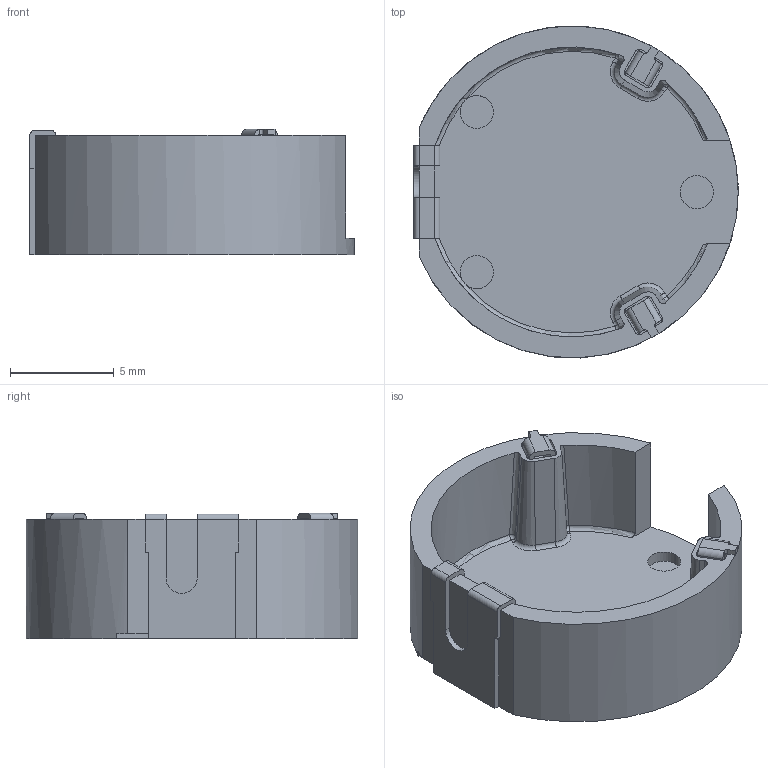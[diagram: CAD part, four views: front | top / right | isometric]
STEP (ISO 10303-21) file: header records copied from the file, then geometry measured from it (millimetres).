
FILE_DESCRIPTION((''),'2;1');
FILE_NAME('C-1513634-1','2011-04-26T',('workeradm'),('Tyco Electronics Ltd.'),'PRO/ENGINEER BY PARAMETRIC TECHNOLOGY CORPORATION, 2009300','PRO/ENGINEER BY PARAMETRIC TECHNOLOGY CORPORATION, 2009300','');
FILE_SCHEMA(('AUTOMOTIVE_DESIGN { 1 0 10303 214 1 1 1 1 }'));
Length unit declared in the file: millimetre
Products named in the file (1): C-1513634-1
Bounding box: 15.63 x 15.99 x 6.05 mm (x, y, z)
Volume: 387.4 mm3; surface area: 919.2 mm2
Topology: 1 solids, 1 shells, 129 faces, 352 edges, 228 vertices
Faces by surface type: plane 71, cylinder 38, torus 8, bspline 4, cone 4, sphere 4
Entity records: 4551 total; most frequent: CARTESIAN_POINT 1005, ORIENTED_EDGE 704, DIRECTION 673, EDGE_CURVE 352, VERTEX_POINT 228, VECTOR 225, LINE 225, AXIS2_PLACEMENT_3D 224
